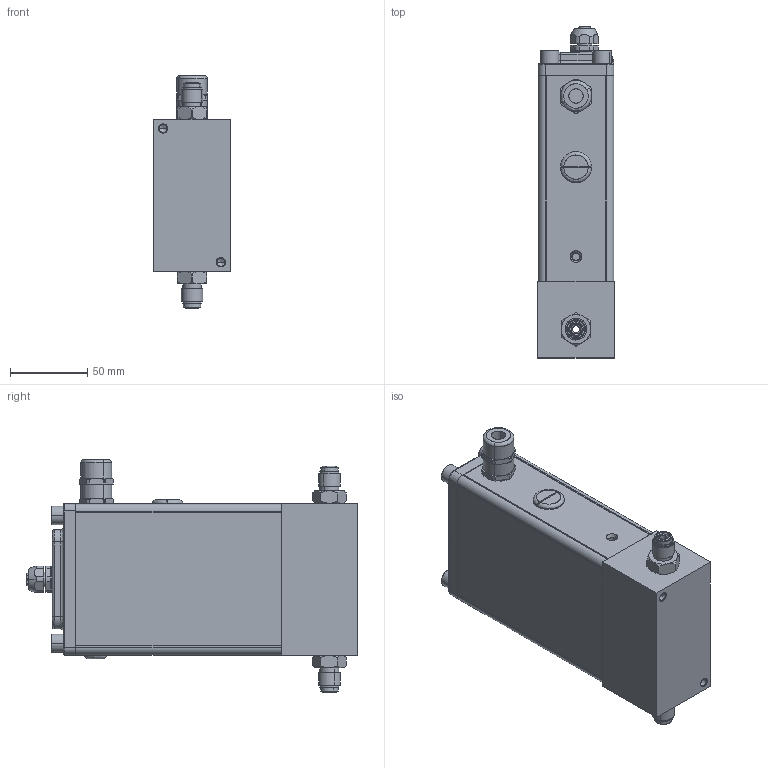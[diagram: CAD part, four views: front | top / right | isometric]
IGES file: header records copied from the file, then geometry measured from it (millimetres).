
Start section: SolidWorks IGES file using analytic representation for surfaces
Global section: file name: G:\Engineering\CAD MODELS FOR SALES\CAD MODEL STORAGE\SLA\SLAMF60\CUSTOMER FILES\IGES\SLAMF60-3-1E-0-A-REVB.IGS; native system: SolidWorks 2023; preprocessor: SolidWorks 2023; author: CFehr; date: 240418.113513; units: inch
Bounding box: 49.5 x 214.99 x 150.64 mm (x, y, z)
Surface area: 154796 mm2 (no closed solid volume)
Topology: 0 solids, 0 shells, 756 faces, 9525 edges, 9511 vertices
Faces by surface type: revolution 444, bspline 312
